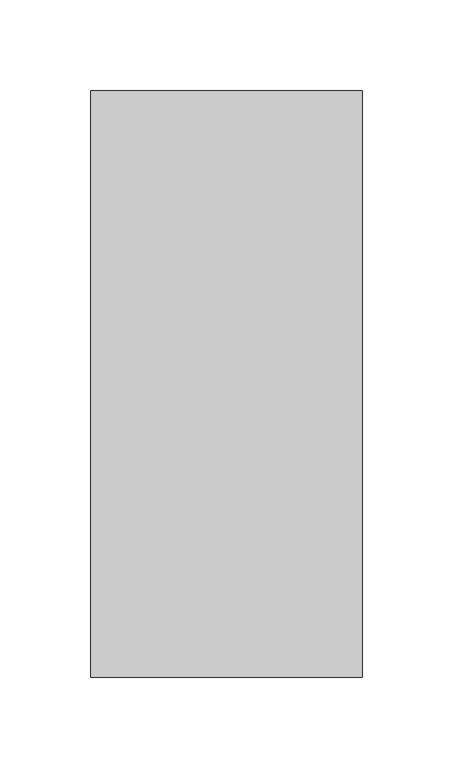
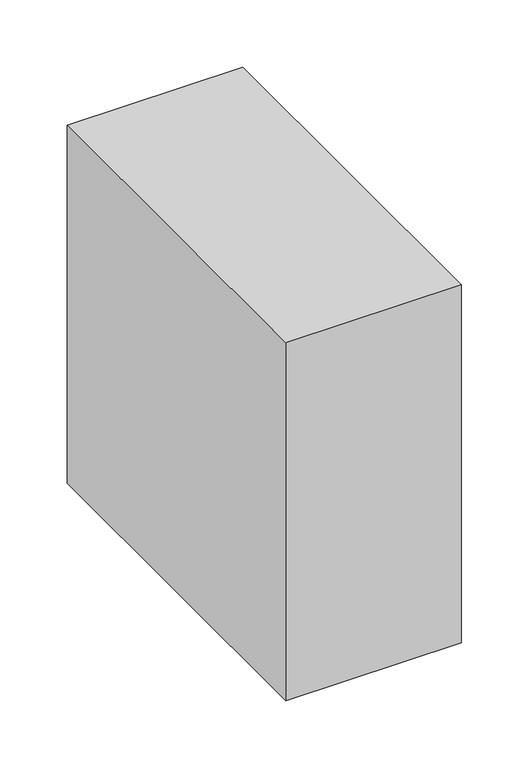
"""IFC4 building model written with IfcOpenShell, lengths in millimetres: damper geometry, M_Противопожарный демпфер - Прямоугольный - Простой : Стандартное."""

from ifc_helpers import new_model, si_unit, frame, origin, place, context, project, spatial, polyline, outline, extrude, source, transform, mapped, element, save


def damper_0c93a5dd(model_context):
    return source(origin(), model_context, "Body", "SweptSolid", [
        extrude(outline(polyline([(75.0, 162.0), (75.0, -162.0), (-75.0, -162.0), (-75.0, 162.0), (75.0, 162.0)])), frame((0.0, 0.0, -162.0), z_axis=(0.0, 0.0, 1.0), x_axis=(1.0, 0.0, 0.0)), (0.0, 0.0, 1.0), 324.0),
    ])


if __name__ == "__main__":
    model = new_model("IFC4")
    model_context = context("Model", 3, world=origin())
    ifc_project = project(units=[si_unit("LENGTHUNIT", "METRE", prefix="MILLI")], contexts=[model_context])
    site = spatial("IfcSite", under=ifc_project)
    building = spatial("IfcBuilding", under=site)
    placement = place(None, origin())
    damper_shape = damper_0c93a5dd(model_context)
    element("IfcDamper", 1, ObjectType="M_Противопожарный демпфер - Прямоугольный - Простой : Стандартное", at=placement, inside=building, context=model_context, shape_type="MappedRepresentation", body=[
        mapped(damper_shape, transform((0.0, 0.0, 0.0), x_axis=(1.0, 0.0, 0.0), y_axis=(0.0, 1.0, 0.0), z_axis=(0.0, 0.0, 1.0))),
    ])
    save(model, "model.ifc")
